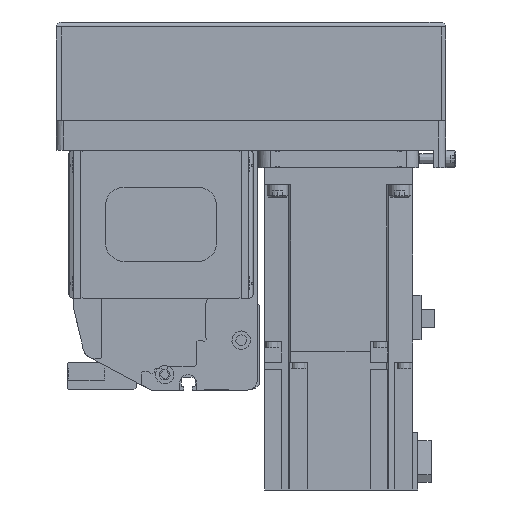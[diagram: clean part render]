
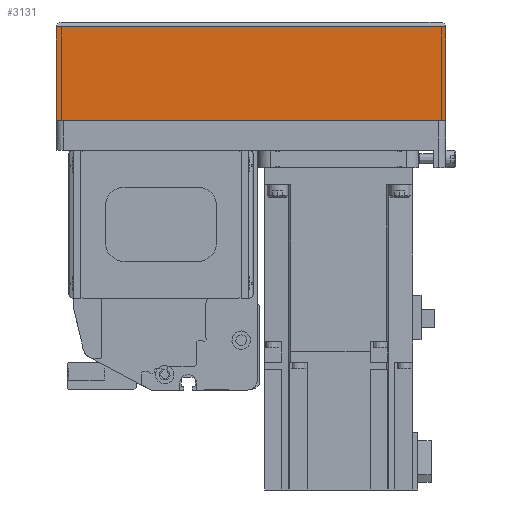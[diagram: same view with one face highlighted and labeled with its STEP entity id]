
A CAD part, left-side view. The second image highlights one B-rep face of the part: STEP entity #3131.
In plain terms, the highlighted planar face has unit normal (-1, 0, 0) as drawn and (0, -1, 0) by its records, which use the part's own axes.
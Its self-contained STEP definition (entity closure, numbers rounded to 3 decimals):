
#3131 = ADVANCED_FACE( '', ( #6741 ), #6742, .T. );
#6741 = FACE_OUTER_BOUND( '', #10606, .T. );
#6742 = PLANE( '', #10607 );
#10606 = EDGE_LOOP( '', ( #19416, #19417, #19418, #19419 ) );
#10607 = AXIS2_PLACEMENT_3D( '', #19420, #19421, #19422 );
#19416 = ORIENTED_EDGE( '', *, *, #24682, .F. );
#19417 = ORIENTED_EDGE( '', *, *, #24632, .F. );
#19418 = ORIENTED_EDGE( '', *, *, #24771, .T. );
#19419 = ORIENTED_EDGE( '', *, *, #24151, .T. );
#19420 = CARTESIAN_POINT( '', ( -158., -39., -12.1 ) );
#19421 = DIRECTION( '', ( 0., -1., 0. ) );
#19422 = DIRECTION( '', ( 0., 0., -1. ) );
#24151 = EDGE_CURVE( '', #29691, #29695, #29697, .T. );
#24632 = EDGE_CURVE( '', #25973, #25711, #30303, .T. );
#24682 = EDGE_CURVE( '', #25711, #29695, #30358, .T. );
#24771 = EDGE_CURVE( '', #25973, #29691, #30468, .T. );
#25711 = VERTEX_POINT( '', #31836 );
#25973 = VERTEX_POINT( '', #32236 );
#29691 = VERTEX_POINT( '', #38210 );
#29695 = VERTEX_POINT( '', #38215 );
#29697 = LINE( '', #38217, #38218 );
#30303 = LINE( '', #39331, #39332 );
#30358 = LINE( '', #39441, #39442 );
#30468 = LINE( '', #39598, #39599 );
#31836 = CARTESIAN_POINT( '', ( 0., -39., -12.1 ) );
#32236 = CARTESIAN_POINT( '', ( -158., -39., -12.1 ) );
#38210 = CARTESIAN_POINT( '', ( -158., -39., -50. ) );
#38215 = CARTESIAN_POINT( '', ( 0., -39., -50. ) );
#38217 = CARTESIAN_POINT( '', ( -158., -39., -50. ) );
#38218 = VECTOR( '', #43684, 1000. );
#39331 = CARTESIAN_POINT( '', ( -158., -39., -12.1 ) );
#39332 = VECTOR( '', #44170, 1000. );
#39441 = CARTESIAN_POINT( '', ( 0., -39., -12.1 ) );
#39442 = VECTOR( '', #44199, 1000. );
#39598 = CARTESIAN_POINT( '', ( -158., -39., -12.1 ) );
#39599 = VECTOR( '', #44276, 1000. );
#43684 = DIRECTION( '', ( 1., 0., 0. ) );
#44170 = DIRECTION( '', ( 1., 0., 0. ) );
#44199 = DIRECTION( '', ( 0., 0., -1. ) );
#44276 = DIRECTION( '', ( 0., 0., -1. ) );
